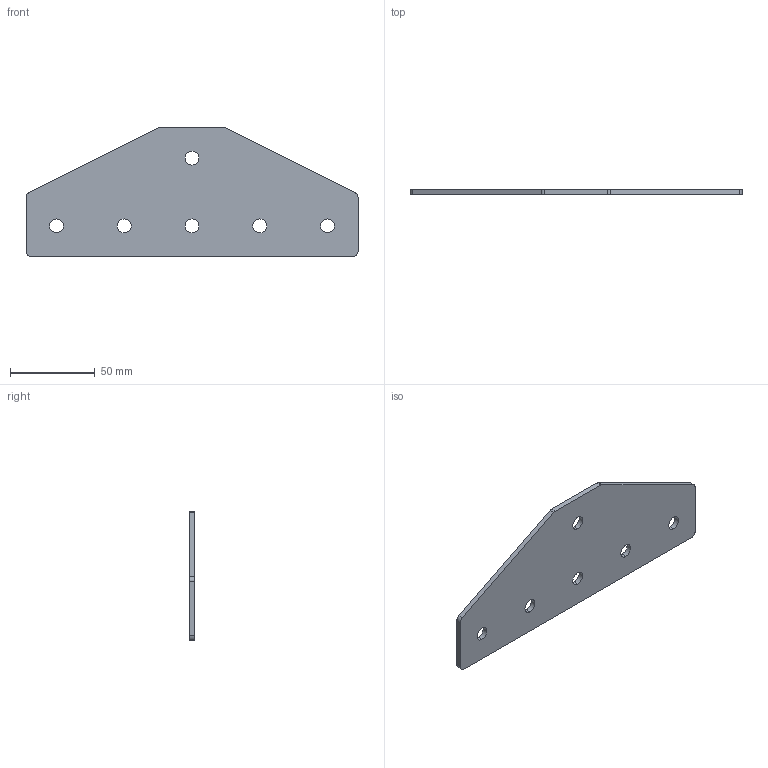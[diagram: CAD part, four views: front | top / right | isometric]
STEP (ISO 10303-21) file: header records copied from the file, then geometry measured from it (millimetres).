
FILE_DESCRIPTION (( 'STEP AP203' ), '1' );
FILE_NAME ('ﾒ-6-ﾓ-40.STEP', '2016-07-22T10:26:05', ( '' ), ( '' ), 'SwSTEP 2.0', 'SolidWorks 2014', '' );
FILE_SCHEMA (( 'CONFIG_CONTROL_DESIGN' ));
Length unit declared in the file: millimetre
Products named in the file (1): ﾒ-6-ﾓ-40
Bounding box: 196 x 3 x 76 mm (x, y, z)
Surface area: 24895.9 mm2 (no closed solid volume)
Topology: 0 solids, 1 shells, 26 faces, 72 edges, 48 vertices
Faces by surface type: cylinder 18, plane 8
Entity records: 953 total; most frequent: DIRECTION 162, CARTESIAN_POINT 147, ORIENTED_EDGE 144, EDGE_CURVE 72, AXIS2_PLACEMENT_3D 63, VERTEX_POINT 48, EDGE_LOOP 38, CIRCLE 36
